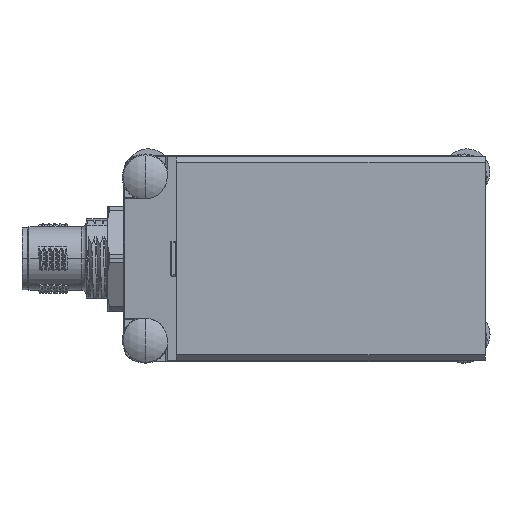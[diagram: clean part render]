
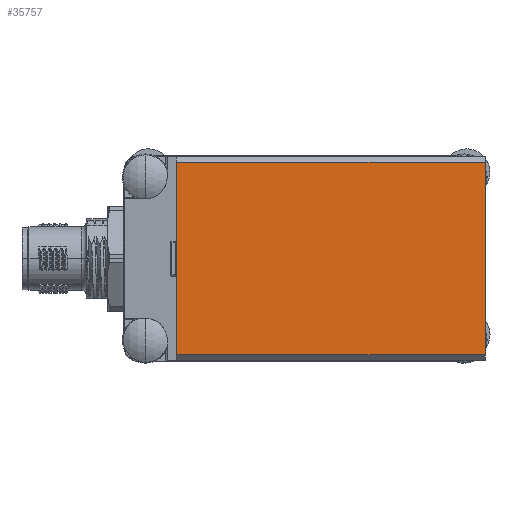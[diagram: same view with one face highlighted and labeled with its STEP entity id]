
A CAD part, front view. The second image highlights one B-rep face of the part: STEP entity #35757.
In plain terms, the highlighted planar face has unit normal (0, -1, 0).
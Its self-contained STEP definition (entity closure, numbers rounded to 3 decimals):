
#3675 = EDGE_CURVE ( 'NONE', #39570, #39676, #16871, .T. ) ;
#3677 = EDGE_CURVE ( 'NONE', #39570, #39710, #16893, .T. ) ;
#3679 = EDGE_CURVE ( 'NONE', #38422, #39710, #16901, .T. ) ;
#3682 = EDGE_CURVE ( 'NONE', #39676, #38422, #16907, .T. ) ;
#13726 = ORIENTED_EDGE ( 'NONE', *, *, #3675, .T. ) ;
#16603 = DIRECTION ( 'NONE',  ( 0., 1., 0. ) ) ;
#16610 = CARTESIAN_POINT ( 'NONE',  ( 0., -17.5, 17.5 ) ) ;
#16615 = PLANE ( 'NONE',  #33306 ) ;
#16617 = DIRECTION ( 'NONE',  ( 0., 0., 1. ) ) ;
#16871 = LINE ( 'NONE', #20134, #16899 ) ;
#16893 = LINE ( 'NONE', #20131, #16904 ) ;
#16899 = VECTOR ( 'NONE', #20119, 1000. ) ;
#16901 = LINE ( 'NONE', #20144, #16911 ) ;
#16904 = VECTOR ( 'NONE', #20142, 1000. ) ;
#16907 = LINE ( 'NONE', #20148, #16915 ) ;
#16911 = VECTOR ( 'NONE', #20146, 1000. ) ;
#16915 = VECTOR ( 'NONE', #20150, 1000. ) ;
#20119 = DIRECTION ( 'NONE',  ( -1., 0., 0. ) ) ;
#20131 = CARTESIAN_POINT ( 'NONE',  ( 0., -17.5, 17.5 ) ) ;
#20134 = CARTESIAN_POINT ( 'NONE',  ( 0., -17.5, 16.5 ) ) ;
#20142 = DIRECTION ( 'NONE',  ( 0., 0., -1. ) ) ;
#20144 = CARTESIAN_POINT ( 'NONE',  ( 0., -17.5, -16.5 ) ) ;
#20146 = DIRECTION ( 'NONE',  ( 1., 0., 0. ) ) ;
#20148 = CARTESIAN_POINT ( 'NONE',  ( -53., -17.5, 17.5 ) ) ;
#20150 = DIRECTION ( 'NONE',  ( 0., 0., -1. ) ) ;
#25386 = FACE_OUTER_BOUND ( 'NONE', #60779, .T. ) ;
#33306 = AXIS2_PLACEMENT_3D ( 'NONE', #16610, #16603, #16617 ) ;
#35757 = ADVANCED_FACE ( 'NONE', ( #25386 ), #16615, .F. ) ;
#38422 = VERTEX_POINT ( 'NONE', #86330 ) ;
#39570 = VERTEX_POINT ( 'NONE', #86465 ) ;
#39676 = VERTEX_POINT ( 'NONE', #86477 ) ;
#39710 = VERTEX_POINT ( 'NONE', #86478 ) ;
#60779 = EDGE_LOOP ( 'NONE', ( #69527, #69533, #79808, #13726 ) ) ;
#69527 = ORIENTED_EDGE ( 'NONE', *, *, #3682, .T. ) ;
#69533 = ORIENTED_EDGE ( 'NONE', *, *, #3679, .T. ) ;
#79808 = ORIENTED_EDGE ( 'NONE', *, *, #3677, .F. ) ;
#86330 = CARTESIAN_POINT ( 'NONE',  ( -53., -17.5, -16.5 ) ) ;
#86465 = CARTESIAN_POINT ( 'NONE',  ( 0., -17.5, 16.5 ) ) ;
#86477 = CARTESIAN_POINT ( 'NONE',  ( -53., -17.5, 16.5 ) ) ;
#86478 = CARTESIAN_POINT ( 'NONE',  ( 0., -17.5, -16.5 ) ) ;
